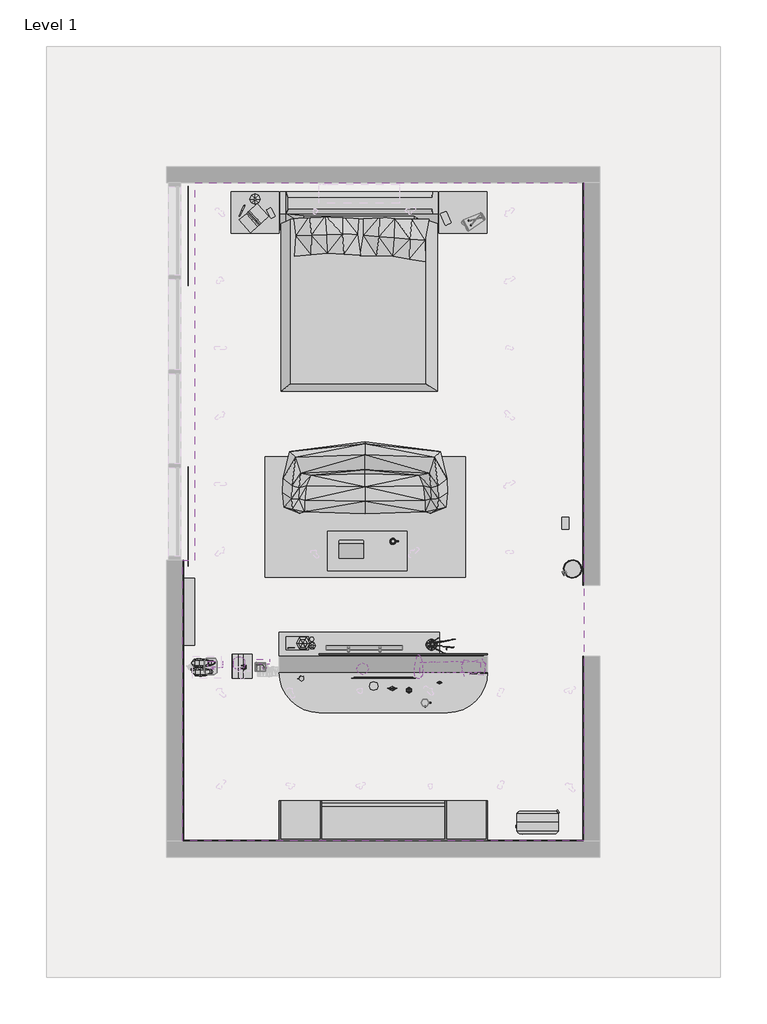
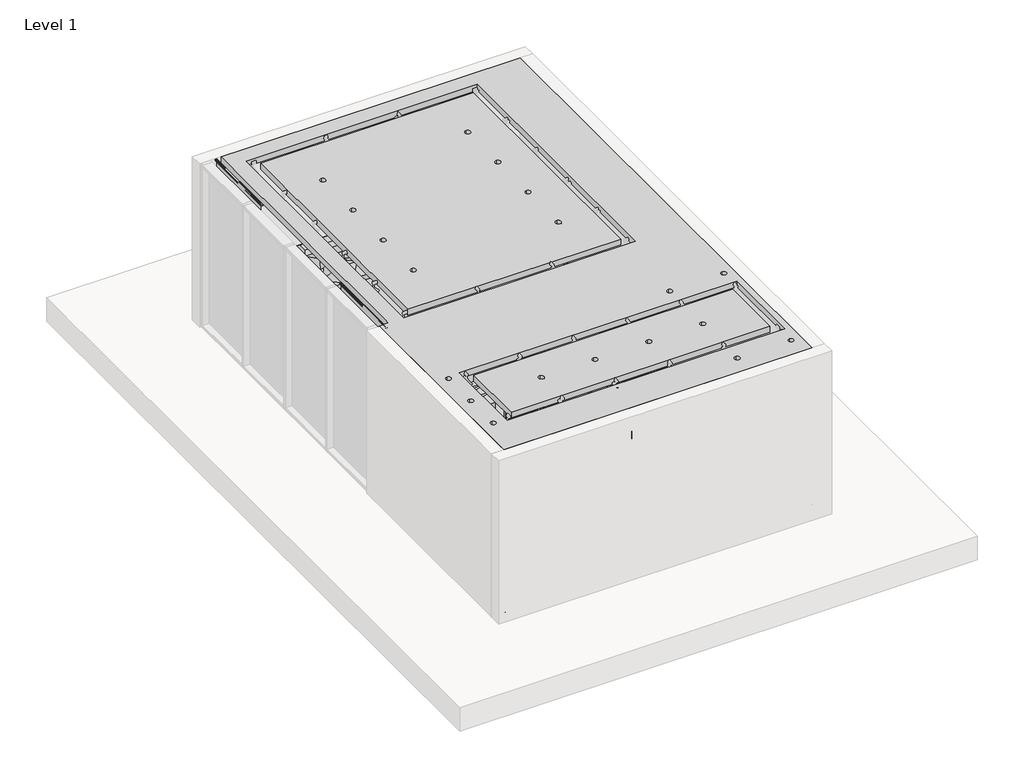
# One storey, part 2 of 2: 42 geographic elements, 9 proxies.
"""IFC4 building model written with IfcOpenShell, lengths in millimetres."""

from ifc_helpers import new_model, si_unit, point, frame, frame_2d, origin, place, context, project, spatial, polyline, circle_curve, ellipse_curve, trimmed, segment, composite_curve, outline, extrude, transform, mapped, element, save
from ifc_brep_helpers import plane_surface, cylinder_surface, advanced_brep
from components import generic_models_2_generic_models_2_3f50845c, generic_models_2_generic_models_2_17f05277, generic_models_3_generic_models_3_f648256a, generic_models_4_generic_models_4_595c3268, generic_models_5_generic_models_5_7c13f3b2, generic_models_7_generic_models_7_d57c916e, generic_models_8_generic_models_8_8e8264de, generic_models_9_generic_models_9_42a9b93f, geographic_element_208f0b4b, geographic_element_5f6d6c8c, geographic_element_73b1dc01, geographic_element_906ff1fe, geographic_element_272661ff, geographic_element_56111ee9, geographic_element_9156fac0, geographic_element_98d2575c, geographic_element_bc1c03e3, geographic_element_74562958, geographic_element_a3d3143a, enscape_assetdefinition_book_013_open_enscape_fd92b1af, enscape_assetdefinition_books_005_enscape_assetdefinition_3f142897, enscape_assetdefinition_books_011_enscape_assetdefinition_1bed9dea, enscape_assetdefinition_bowl_012_stack_enscape_61926c2f, enscape_assetdefinition_clock_002_enscape_assetdefinition_3edd2a66, enscape_assetdefinition_creme_tube_002_enscape_c31c35f7, enscape_assetdefinition_creme_tube_003_enscape_29d52560, enscape_assetdefinition_creme_tube_005_enscape_07ce0c4e, enscape_assetdefinition_creme_tube_006_enscape_695fccb8, enscape_assetdefinition_cup_002_coffee_enscape_aa947409, enscape_assetdefinition_cup_013_enscape_assetdefinition_cup_4f71ced8, enscape_assetdefinition_curtain_001_enscape_assetdefinition_ad6f74d6, enscape_assetdefinition_framed_photo_001_enscape_9ab4174a, enscape_assetdefinition_framed_photo_003_enscape_fe930a36, enscape_assetdefinition_heater_001_enscape_assetdefinition_c588bdaf, enscape_assetdefinition_laptop_004_enscape_assetdefinition_8b861ff2, enscape_assetdefinition_light_switch_001_enscape_6b1c9711, enscape_assetdefinition_pen_003_enscape_assetdefinition_pen_f7e62ea4, enscape_assetdefinition_pencil_case_002_enscape_daa552db, enscape_assetdefinition_power_socket_001_enscape_5ca5412b, enscape_assetdefinition_rug_014_enscape_assetdefinition_rug_3113469b, enscape_assetdefinition_sofa_017_enscape_assetdefinition_a1c17dae, enscape_assetdefinition_tv_001_wall_mounted_enscape_d5117aad, enscape_assetdefinition_table_031_enscape_assetdefinition_3ed2c79c, enscape_assetdefinition_telephone_002_enscape_9aaeaa57, enscape_assetdefinition_trolley_case_001_enscape_be718ea5, enscape_assetdefinition_vase_050_enscape_assetdefinition_a4bf4c07

model = new_model("IFC4")

# Units and contexts
model_context = context("Model", 3, world=origin())
ifc_project = project(units=[si_unit("LENGTHUNIT", "METRE", prefix="MILLI")], contexts=[model_context])

# Site, building, storey
site = spatial("IfcSite", under=ifc_project)
building = spatial("IfcBuilding", under=site)
storey = spatial("IfcBuildingStorey", under=building, Name="Level 1", Elevation=0.0)

# Proxies
placement = place(None, origin())
element("IfcBuildingElementProxy", 1, Name="Cornice", ObjectType="Cornice", at=placement, inside=storey, context=model_context, shape_type="AdvancedBrep", body=[
    advanced_brep(
    [(5806.8449565, -8165.4040425, 100.0), (5806.8449565, -8165.4040425, 0.0), (5806.8449565, -8154.7954982, 0.0), (5806.8449565, -8155.4613354, 4.7376777), (5806.8449565, -8156.3831107, 5.3249134), (5806.8449565, -8157.9216076, 5.3249134), (5806.8449565, -8157.9216076, 9.3340925), (5806.8449565, -8156.1569773, 9.3340925), (5806.8449565, -8156.1569773, 14.3340925), (5806.8449565, -8157.9216076, 14.3340925), (5806.8449565, -8157.9216076, 18.4025531), (5806.8449565, -8156.1569773, 18.4025531), (5806.8449565, -8156.1569773, 22.7958585), (5806.8449565, -8159.2819773, 22.7958585), (5806.8449565, -8159.2819773, 87.7958585), (5806.8449565, -8161.4973373, 87.7958585), (5806.8449565, -8161.4973373, 92.7958585), (5806.8449565, -8159.2819773, 92.7958585), (5806.8449565, -8159.2819773, 97.7787085), (5806.8449565, -8161.5032688, 100.0), (801.8449565, -8165.4040425, 100.0), (805.7457302, -8161.5032688, 100.0), (807.9670217, -8159.2819773, 97.7787085), (807.9670217, -8159.2819773, 92.7958585), (805.7516617, -8161.4973373, 92.7958585), (805.7516617, -8161.4973373, 87.7958585), (807.9670217, -8159.2819773, 87.7958585), (807.9670217, -8159.2819773, 22.7958585), (811.0920217, -8156.1569773, 22.7958585), (811.0920217, -8156.1569773, 18.4025531), (809.3273915, -8157.9216076, 18.4025531), (809.3273915, -8157.9216076, 14.3340925), (811.0920217, -8156.1569773, 14.3340925), (811.0920217, -8156.1569773, 9.3340925), (809.3273915, -8157.9216076, 9.3340925), (809.3273915, -8157.9216076, 5.3249134), (810.8658883, -8156.3831107, 5.3249134), (811.7876636, -8155.4613354, 4.7376777), (812.4535008, -8154.7954982, 0.0), (801.8449565, -8165.4040425, 0.0)],
    [
        (0, 1),
        (1, 2),
        (2, 3),
        (3, 4, circle_curve(frame((5806.8449565, -8156.3831107, 4.3078468), z_axis=(1.0, 0.0, 0.0), x_axis=(0.0, 1.0, 0.0)), 1.0170665)),
        (4, 5),
        (5, 6),
        (6, 7),
        (7, 8),
        (8, 9),
        (9, 10),
        (10, 11),
        (11, 12),
        (12, 13),
        (13, 14),
        (14, 15),
        (15, 16),
        (16, 17),
        (17, 18),
        (18, 19, circle_curve(frame((5806.8449565, -8161.5032688, 97.7787085), z_axis=(1.0, 0.0, 0.0), x_axis=(0.0, 1.0, 0.0)), 2.2212915)),
        (19, 0),
        (20, 21),
        (21, 22, ellipse_curve(frame((805.7457302, -8161.5032688, 97.7787085), z_axis=(-0.7071067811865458, 0.7071067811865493, 0.0), x_axis=(0.7071067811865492, 0.7071067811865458, 0.0)), 3.1413806, 2.2212915)),
        (22, 23),
        (23, 24),
        (24, 25),
        (25, 26),
        (26, 27),
        (27, 28),
        (28, 29),
        (29, 30),
        (30, 31),
        (31, 32),
        (32, 33),
        (33, 34),
        (34, 35),
        (35, 36),
        (36, 37, ellipse_curve(frame((810.8658883, -8156.3831107, 4.3078468), z_axis=(-0.7071067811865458, 0.7071067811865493, 0.0), x_axis=(0.7071067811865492, 0.7071067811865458, 0.0)), 1.4383493, 1.0170665)),
        (37, 38),
        (38, 39),
        (39, 20),
        (19, 21),
        (20, 0),
        (39, 1),
        (38, 2),
        (37, 3),
        (36, 4),
        (35, 5),
        (34, 6),
        (33, 7),
        (32, 8),
        (31, 9),
        (30, 10),
        (29, 11),
        (28, 12),
        (27, 13),
        (26, 14),
        (25, 15),
        (24, 16),
        (23, 17),
        (22, 18),
    ],
    [
        plane_surface(frame((5806.8449565, -8165.4040425, -100.0760513), z_axis=(1.0, 0.0, 0.0), x_axis=(0.0, -1.0, 0.0))),
        plane_surface(frame((801.8449565, -8165.4040425, 304.8), z_axis=(-0.7071067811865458, 0.7071067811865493, 0.0), x_axis=(0.7071067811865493, 0.7071067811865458, 0.0))),
        plane_surface(frame((5806.8449565, -8161.5032688, 100.0), z_axis=(0.0, 0.0, 1.0), x_axis=(-1.0, 0.0, 0.0))),
        plane_surface(frame((5806.8449565, -8165.4040425, 100.0), z_axis=(0.0, -1.0, 0.0), x_axis=(-1.0, 0.0, 0.0))),
        plane_surface(frame((5806.8449565, -8165.4040425, 0.0), z_axis=(0.0, 0.0, -1.0), x_axis=(-1.0, 0.0, 0.0))),
        plane_surface(frame((5806.8449565, -8154.7954982, 0.0), z_axis=(0.0, 0.9902680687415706, 0.13917310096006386), x_axis=(-1.0, 0.0, 0.0))),
        cylinder_surface(frame((5806.8449565, -8156.3831107, 4.3078468), z_axis=(1.0, 0.0, 0.0), x_axis=(0.0, 1.0, 0.0)), 1.0170665),
        plane_surface(frame((5806.8449565, -8156.3831107, 5.3249134), z_axis=(0.0, 0.0, 1.0), x_axis=(-1.0, 0.0, 0.0))),
        plane_surface(frame((5806.8449565, -8157.9216076, 5.3249134), z_axis=(0.0, 1.0, 0.0), x_axis=(-1.0, 0.0, 0.0))),
        plane_surface(frame((5806.8449565, -8157.9216076, 9.3340925), z_axis=(0.0, 0.0, -1.0), x_axis=(-1.0, 0.0, 0.0))),
        plane_surface(frame((5806.8449565, -8156.1569773, 9.3340925), z_axis=(0.0, 1.0, 0.0), x_axis=(-1.0, 0.0, 0.0))),
        plane_surface(frame((5806.8449565, -8156.1569773, 14.3340925), z_axis=(0.0, 0.0, 1.0), x_axis=(-1.0, 0.0, 0.0))),
        plane_surface(frame((5806.8449565, -8157.9216076, 14.3340925), z_axis=(0.0, 1.0, 0.0), x_axis=(-1.0, 0.0, 0.0))),
        plane_surface(frame((5806.8449565, -8157.9216076, 18.4025531), z_axis=(0.0, 0.0, -1.0), x_axis=(-1.0, 0.0, 0.0))),
        plane_surface(frame((5806.8449565, -8156.1569773, 18.4025531), z_axis=(0.0, 1.0, 0.0), x_axis=(-1.0, 0.0, 0.0))),
        plane_surface(frame((5806.8449565, -8156.1569773, 22.7958585), z_axis=(0.0, 0.0, 1.0), x_axis=(-1.0, 0.0, 0.0))),
        plane_surface(frame((5806.8449565, -8159.2819773, 22.7958585), z_axis=(0.0, 1.0, 0.0), x_axis=(-1.0, 0.0, 0.0))),
        plane_surface(frame((5806.8449565, -8159.2819773, 87.7958585), z_axis=(0.0, 0.0, 1.0), x_axis=(-1.0, 0.0, 0.0))),
        plane_surface(frame((5806.8449565, -8161.4973373, 87.7958585), z_axis=(0.0, 1.0, 0.0), x_axis=(-1.0, 0.0, 0.0))),
        plane_surface(frame((5806.8449565, -8161.4973373, 92.7958585), z_axis=(0.0, 0.0, -1.0), x_axis=(-1.0, 0.0, 0.0))),
        plane_surface(frame((5806.8449565, -8159.2819773, 92.7958585), z_axis=(0.0, 1.0, 0.0), x_axis=(-1.0, 0.0, 0.0))),
        cylinder_surface(frame((5806.8449565, -8161.5032688, 97.7787085), z_axis=(1.0, 0.0, 0.0), x_axis=(0.0, 1.0, 0.0)), 2.2212915),
    ],
    [
        (0, [[1, 2, 3, 4, 5, 6, 7, 8, 9, 10, 11, 12, 13, 14, 15, 16, 17, 18, 19, 20]]),
        (1, [[21, 22, 23, 24, 25, 26, 27, 28, 29, 30, 31, 32, 33, 34, 35, 36, 37, 38, 39, 40]]),
        (2, [[-20, 41, -21, 42]]),
        (3, [[-1, -42, -40, 43]]),
        (4, [[-2, -43, -39, 44]]),
        (5, [[-3, -44, -38, 45]]),
        (6, [[-4, -45, -37, 46]]),
        (7, [[-5, -46, -36, 47]]),
        (8, [[-6, -47, -35, 48]]),
        (9, [[-7, -48, -34, 49]]),
        (10, [[-8, -49, -33, 50]]),
        (11, [[-9, -50, -32, 51]]),
        (12, [[-10, -51, -31, 52]]),
        (13, [[-11, -52, -30, 53]]),
        (14, [[-12, -53, -29, 54]]),
        (15, [[-13, -54, -28, 55]]),
        (16, [[-14, -55, -27, 56]]),
        (17, [[-15, -56, -26, 57]]),
        (18, [[-16, -57, -25, 58]]),
        (19, [[-17, -58, -24, 59]]),
        (20, [[-18, -59, -23, 60]]),
        (21, [[-19, -60, -22, -41]]),
    ],
),
    advanced_brep(
    [(801.8449565, -4665.4040425, 100.0), (805.7457302, -4665.4040425, 100.0), (807.9670217, -4665.4040425, 97.7787085), (807.9670217, -4665.4040425, 92.7958585), (805.7516617, -4665.4040425, 92.7958585), (805.7516617, -4665.4040425, 87.7958585), (807.9670217, -4665.4040425, 87.7958585), (807.9670217, -4665.4040425, 22.7958585), (811.0920217, -4665.4040425, 22.7958585), (811.0920217, -4665.4040425, 18.4025531), (809.3273915, -4665.4040425, 18.4025531), (809.3273915, -4665.4040425, 14.3340925), (811.0920217, -4665.4040425, 14.3340925), (811.0920217, -4665.4040425, 9.3340925), (809.3273915, -4665.4040425, 9.3340925), (809.3273915, -4665.4040425, 5.3249134), (810.8658883, -4665.4040425, 5.3249134), (811.7876636, -4665.4040425, 4.7376777), (812.4535008, -4665.4040425, 0.0), (801.8449565, -4665.4040425, 0.0), (801.8449565, -8165.4040425, 100.0), (801.8449565, -8165.4040425, 0.0), (812.4535008, -8154.7954982, 0.0), (811.7876636, -8155.4613354, 4.7376777), (810.8658883, -8156.3831107, 5.3249134), (809.3273915, -8157.9216076, 5.3249134), (809.3273915, -8157.9216076, 9.3340925), (811.0920217, -8156.1569773, 9.3340925), (811.0920217, -8156.1569773, 14.3340925), (809.3273915, -8157.9216076, 14.3340925), (809.3273915, -8157.9216076, 18.4025531), (811.0920217, -8156.1569773, 18.4025531), (811.0920217, -8156.1569773, 22.7958585), (807.9670217, -8159.2819773, 22.7958585), (807.9670217, -8159.2819773, 87.7958585), (805.7516617, -8161.4973373, 87.7958585), (805.7516617, -8161.4973373, 92.7958585), (807.9670217, -8159.2819773, 92.7958585), (807.9670217, -8159.2819773, 97.7787085), (805.7457302, -8161.5032688, 100.0)],
    [
        (0, 1),
        (1, 2, circle_curve(frame((805.7457302, -4665.4040425, 97.7787085), z_axis=(0.0, 1.0, 0.0), x_axis=(1.0, 0.0, 0.0)), 2.2212915)),
        (2, 3),
        (3, 4),
        (4, 5),
        (5, 6),
        (6, 7),
        (7, 8),
        (8, 9),
        (9, 10),
        (10, 11),
        (11, 12),
        (12, 13),
        (13, 14),
        (14, 15),
        (15, 16),
        (16, 17, circle_curve(frame((810.8658883, -4665.4040425, 4.3078468), z_axis=(0.0, 1.0, 0.0), x_axis=(1.0, 0.0, 0.0)), 1.0170665)),
        (17, 18),
        (18, 19),
        (19, 0),
        (20, 21),
        (21, 22),
        (22, 23),
        (23, 24, ellipse_curve(frame((810.8658883, -8156.3831107, 4.3078468), z_axis=(0.7071067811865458, -0.7071067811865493, 0.0), x_axis=(0.7071067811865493, 0.7071067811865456, 0.0)), 1.4383493, 1.0170665)),
        (24, 25),
        (25, 26),
        (26, 27),
        (27, 28),
        (28, 29),
        (29, 30),
        (30, 31),
        (31, 32),
        (32, 33),
        (33, 34),
        (34, 35),
        (35, 36),
        (36, 37),
        (37, 38),
        (38, 39, ellipse_curve(frame((805.7457302, -8161.5032688, 97.7787085), z_axis=(0.7071067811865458, -0.7071067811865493, 0.0), x_axis=(0.7071067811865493, 0.7071067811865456, 0.0)), 3.1413806, 2.2212915)),
        (39, 20),
        (0, 20),
        (39, 1),
        (38, 2),
        (37, 3),
        (36, 4),
        (35, 5),
        (34, 6),
        (33, 7),
        (32, 8),
        (31, 9),
        (30, 10),
        (29, 11),
        (28, 12),
        (27, 13),
        (26, 14),
        (25, 15),
        (24, 16),
        (23, 17),
        (22, 18),
        (21, 19),
    ],
    [
        plane_surface(frame((701.7689053, -4665.4040425, 0.0), z_axis=(0.0, 1.0, 0.0), x_axis=(0.0, 0.0, -1.0))),
        plane_surface(frame((801.8449565, -8165.4040425, -304.8), z_axis=(0.7071067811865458, -0.7071067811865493, 0.0), x_axis=(0.7071067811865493, 0.7071067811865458, 0.0))),
        plane_surface(frame((801.8449565, -4665.4040425, 100.0), z_axis=(0.0, 0.0, 1.0), x_axis=(0.0, -1.0, 0.0))),
        cylinder_surface(frame((805.7457302, -4665.4040425, 97.7787085), z_axis=(0.0, 1.0, 0.0), x_axis=(1.0, 0.0, 0.0)), 2.2212915),
        plane_surface(frame((807.9670217, -4665.4040425, 97.7787085), z_axis=(1.0, 0.0, 0.0), x_axis=(0.0, -1.0, 0.0))),
        plane_surface(frame((807.9670217, -4665.4040425, 92.7958585), z_axis=(0.0, 0.0, -1.0), x_axis=(0.0, -1.0, 0.0))),
        plane_surface(frame((805.7516617, -4665.4040425, 92.7958585), z_axis=(1.0, 0.0, 0.0), x_axis=(0.0, -1.0, 0.0))),
        plane_surface(frame((805.7516617, -4665.4040425, 87.7958585), z_axis=(0.0, 0.0, 1.0), x_axis=(0.0, -1.0, 0.0))),
        plane_surface(frame((807.9670217, -4665.4040425, 87.7958585), z_axis=(1.0, 0.0, 0.0), x_axis=(0.0, -1.0, 0.0))),
        plane_surface(frame((807.9670217, -4665.4040425, 22.7958585), z_axis=(0.0, 0.0, 1.0), x_axis=(0.0, -1.0, 0.0))),
        plane_surface(frame((811.0920217, -4665.4040425, 22.7958585), z_axis=(1.0, 0.0, 0.0), x_axis=(0.0, -1.0, 0.0))),
        plane_surface(frame((811.0920217, -4665.4040425, 18.4025531), z_axis=(0.0, 0.0, -1.0), x_axis=(0.0, -1.0, 0.0))),
        plane_surface(frame((809.3273915, -4665.4040425, 18.4025531), z_axis=(1.0, 0.0, 0.0), x_axis=(0.0, -1.0, 0.0))),
        plane_surface(frame((809.3273915, -4665.4040425, 14.3340925), z_axis=(0.0, 0.0, 1.0), x_axis=(0.0, -1.0, 0.0))),
        plane_surface(frame((811.0920217, -4665.4040425, 14.3340925), z_axis=(1.0, 0.0, 0.0), x_axis=(0.0, -1.0, 0.0))),
        plane_surface(frame((811.0920217, -4665.4040425, 9.3340925), z_axis=(0.0, 0.0, -1.0), x_axis=(0.0, -1.0, 0.0))),
        plane_surface(frame((809.3273915, -4665.4040425, 9.3340925), z_axis=(1.0, 0.0, 0.0), x_axis=(0.0, -1.0, 0.0))),
        plane_surface(frame((809.3273915, -4665.4040425, 5.3249134), z_axis=(0.0, 0.0, 1.0), x_axis=(0.0, -1.0, 0.0))),
        cylinder_surface(frame((810.8658883, -4665.4040425, 4.3078468), z_axis=(0.0, 1.0, 0.0), x_axis=(1.0, 0.0, 0.0)), 1.0170665),
        plane_surface(frame((811.7876636, -4665.4040425, 4.7376777), z_axis=(0.9902680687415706, 0.0, 0.13917310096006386), x_axis=(0.0, -1.0, 0.0))),
        plane_surface(frame((812.4535008, -4665.4040425, 0.0), z_axis=(0.0, 0.0, -1.0), x_axis=(0.0, -1.0, 0.0))),
        plane_surface(frame((801.8449565, -4665.4040425, 0.0), z_axis=(-1.0, 0.0, 0.0), x_axis=(0.0, -1.0, 0.0))),
    ],
    [
        (0, [[1, 2, 3, 4, 5, 6, 7, 8, 9, 10, 11, 12, 13, 14, 15, 16, 17, 18, 19, 20]]),
        (1, [[21, 22, 23, 24, 25, 26, 27, 28, 29, 30, 31, 32, 33, 34, 35, 36, 37, 38, 39, 40]]),
        (2, [[-1, 41, -40, 42]]),
        (3, [[-2, -42, -39, 43]]),
        (4, [[-3, -43, -38, 44]]),
        (5, [[-4, -44, -37, 45]]),
        (6, [[-5, -45, -36, 46]]),
        (7, [[-6, -46, -35, 47]]),
        (8, [[-7, -47, -34, 48]]),
        (9, [[-8, -48, -33, 49]]),
        (10, [[-9, -49, -32, 50]]),
        (11, [[-10, -50, -31, 51]]),
        (12, [[-11, -51, -30, 52]]),
        (13, [[-12, -52, -29, 53]]),
        (14, [[-13, -53, -28, 54]]),
        (15, [[-14, -54, -27, 55]]),
        (16, [[-15, -55, -26, 56]]),
        (17, [[-16, -56, -25, 57]]),
        (18, [[-17, -57, -24, 58]]),
        (19, [[-18, -58, -23, 59]]),
        (20, [[-19, -59, -22, 60]]),
        (21, [[-20, -60, -21, -41]]),
    ],
),
])
element("IfcBuildingElementProxy", 2, Name="Cornice", ObjectType="Cornice", at=placement, inside=storey, context=model_context, shape_type="SweptSolid", body=[
    extrude(outline(composite_curve([segment(polyline([(100.0, 5801.8449565), (100.0, 5797.9441829)]), True, "CONTINUOUS"), segment(trimmed(circle_curve(frame_2d((97.7787085, 5797.9441829)), 2.2212915), [point((100.0, 5797.9441829))], [point((97.7787085, 5795.7228913))], False, "CARTESIAN"), True, "CONTINUOUS"), segment(polyline([(97.7787085, 5795.7228913), (92.7958585, 5795.7228913), (92.7958585, 5797.9382514), (87.7958585, 5797.9382514), (87.7958585, 5795.7228913), (22.7958585, 5795.7228913), (22.7958585, 5792.5978913), (18.4025531, 5792.5978913), (18.4025531, 5794.3625216), (14.3340925, 5794.3625216), (14.3340925, 5792.5978913), (9.3340925, 5792.5978913), (9.3340925, 5794.3625216), (5.3249134, 5794.3625216), (5.3249134, 5792.8240248)]), True, "CONTINUOUS"), segment(trimmed(circle_curve(frame_2d((4.3078468, 5792.8240248)), 1.0170665), [point((5.3249134, 5792.8240248))], [point((4.7376777, 5791.9022495))], False, "CARTESIAN"), True, "CONTINUOUS"), segment(polyline([(4.7376777, 5791.9022495), (0.0, 5791.2364123), (0.0, 5801.8449565), (100.0, 5801.8449565)]), True, "CONTINUOUS")], self_intersect=False)), frame((0.0, -8165.4040425, 0.0), z_axis=(0.0, 1.0, 0.0), x_axis=(0.0, 0.0, 1.0)), (0.0, 0.0, 1.0), 2300.0),
    extrude(outline(composite_curve([segment(polyline([(100.0, 5801.8449565), (100.0, 5797.9441829)]), True, "CONTINUOUS"), segment(trimmed(circle_curve(frame_2d((97.7787085, 5797.9441829)), 2.2212915), [point((100.0, 5797.9441829))], [point((97.7787085, 5795.7228913))], False, "CARTESIAN"), True, "CONTINUOUS"), segment(polyline([(97.7787085, 5795.7228913), (92.7958585, 5795.7228913), (92.7958585, 5797.9382514), (87.7958585, 5797.9382514), (87.7958585, 5795.7228913), (22.7958585, 5795.7228913), (22.7958585, 5792.5978913), (18.4025531, 5792.5978913), (18.4025531, 5794.3625216), (14.3340925, 5794.3625216), (14.3340925, 5792.5978913), (9.3340925, 5792.5978913), (9.3340925, 5794.3625216), (5.3249134, 5794.3625216), (5.3249134, 5792.8240248)]), True, "CONTINUOUS"), segment(trimmed(circle_curve(frame_2d((4.3078468, 5792.8240248)), 1.0170665), [point((5.3249134, 5792.8240248))], [point((4.7376777, 5791.9022495))], False, "CARTESIAN"), True, "CONTINUOUS"), segment(polyline([(4.7376777, 5791.9022495), (0.0, 5791.2364123), (0.0, 5801.8449565), (100.0, 5801.8449565)]), True, "CONTINUOUS")], self_intersect=False)), frame((0.0, -4975.4040425, 0.0), z_axis=(0.0, 1.0, 0.0), x_axis=(0.0, 0.0, 1.0)), (0.0, 0.0, 1.0), 5010.0),
])
generic_models_2_generic_models_2_shape = generic_models_2_generic_models_2_3f50845c(model_context)
generic_models_2_generic_models_2_2_shape = generic_models_2_generic_models_2_17f05277(model_context)
element("IfcBuildingElementProxy", 3, Name="Generic Models 2 : Generic Models 2", ObjectType="Generic Models 2 : Generic Models 2", at=placement, inside=storey, context=model_context, shape_type="MappedRepresentation", body=[
    mapped(generic_models_2_generic_models_2_shape, transform((0.0, 0.0, 0.0), x_axis=(1.0, 0.0, 0.0), y_axis=(0.0, 1.0, 0.0), z_axis=(0.0, 0.0, 1.0))),
    mapped(generic_models_2_generic_models_2_2_shape, transform((0.0, 0.0, 0.0), x_axis=(1.0, 0.0, 0.0), y_axis=(0.0, 1.0, 0.0), z_axis=(0.0, 0.0, 1.0))),
])
generic_models_3_generic_models_3_shape = generic_models_3_generic_models_3_f648256a(model_context)
element("IfcBuildingElementProxy", 4, Name="Generic Models 3 : Generic Models 3", ObjectType="Generic Models 3 : Generic Models 3", at=placement, inside=storey, context=model_context, shape_type="MappedRepresentation", body=[
    mapped(generic_models_3_generic_models_3_shape, transform((0.0, 0.0, 0.0), x_axis=(1.0, 0.0, 0.0), y_axis=(0.0, 1.0, 0.0), z_axis=(0.0, 0.0, 1.0))),
])
generic_models_4_generic_models_4_shape = generic_models_4_generic_models_4_595c3268(model_context)
element("IfcBuildingElementProxy", 5, Name="Generic Models 4 : Generic Models 4", ObjectType="Generic Models 4 : Generic Models 4", at=placement, inside=storey, context=model_context, shape_type="MappedRepresentation", body=[
    mapped(generic_models_4_generic_models_4_shape, transform((0.0, 0.0, 0.0), x_axis=(1.0, 0.0, 0.0), y_axis=(0.0, 1.0, 0.0), z_axis=(0.0, 0.0, 1.0))),
])
generic_models_5_generic_models_5_shape = generic_models_5_generic_models_5_7c13f3b2(model_context)
element("IfcBuildingElementProxy", 6, Name="Generic Models 5 : Generic Models 5", ObjectType="Generic Models 5 : Generic Models 5", at=placement, inside=storey, context=model_context, shape_type="MappedRepresentation", body=[
    mapped(generic_models_5_generic_models_5_shape, transform((0.0, 0.0, 0.0), x_axis=(1.0, 0.0, 0.0), y_axis=(0.0, 1.0, 0.0), z_axis=(0.0, 0.0, 1.0))),
])
generic_models_7_generic_models_7_shape = generic_models_7_generic_models_7_d57c916e(model_context)
element("IfcBuildingElementProxy", 7, Name="Generic Models 7 : Generic Models 7", ObjectType="Generic Models 7 : Generic Models 7", at=placement, inside=storey, context=model_context, shape_type="MappedRepresentation", body=[
    mapped(generic_models_7_generic_models_7_shape, transform((0.0, 0.0, 0.0), x_axis=(1.0, 0.0, 0.0), y_axis=(0.0, 1.0, 0.0), z_axis=(0.0, 0.0, 1.0))),
])
generic_models_8_generic_models_8_shape = generic_models_8_generic_models_8_8e8264de(model_context)
element("IfcBuildingElementProxy", 8, Name="Generic Models 8 : Generic Models 8", ObjectType="Generic Models 8 : Generic Models 8", at=placement, inside=storey, context=model_context, shape_type="MappedRepresentation", body=[
    mapped(generic_models_8_generic_models_8_shape, transform((0.0, 0.0, 0.0), x_axis=(1.0, 0.0, 0.0), y_axis=(0.0, 1.0, 0.0), z_axis=(0.0, 0.0, 1.0))),
])
generic_models_9_generic_models_9_shape = generic_models_9_generic_models_9_42a9b93f(model_context)
element("IfcBuildingElementProxy", 9, Name="Generic Models 9 : Generic Models 9", ObjectType="Generic Models 9 : Generic Models 9", at=placement, inside=storey, context=model_context, shape_type="MappedRepresentation", body=[
    mapped(generic_models_9_generic_models_9_shape, transform((0.0, 0.0, 0.0), x_axis=(1.0, 0.0, 0.0), y_axis=(0.0, 1.0, 0.0), z_axis=(0.0, 0.0, 1.0))),
])

# Geographic elements
geographic_element_shape = geographic_element_208f0b4b(model_context)
element("IfcGeographicElement", 10, ObjectType="Enscape AssetDefinition - Bed 008 197 x 249 cm (77 x 98 in) : Enscape AssetDefinition - Bed 008 197 x 249 cm (77 x 98 in)", at=placement, inside=storey, context=model_context, shape_type="MappedRepresentation", body=[
    mapped(geographic_element_shape, transform((3001.8449565, -1235.4040425, 0.0), x_axis=(1.0, 0.0, 0.0), y_axis=(0.0, 1.0, 0.0), z_axis=(0.0, 0.0, 1.0))),
])
geographic_element_2_shape = geographic_element_5f6d6c8c(model_context)
element("IfcGeographicElement", 11, ObjectType="Enscape AssetDefinition - Decorative Goods 012 Bears : Enscape AssetDefinition - Decorative Goods 012 Bears", at=placement, inside=storey, context=model_context, shape_type="MappedRepresentation", body=[
    mapped(geographic_element_2_shape, transform((1053.3349176, -6000.0, 746.0), x_axis=(0.0, 1.0, 0.0), y_axis=(-1.0, 0.0, 0.0), z_axis=(0.0, 0.0, 1.0))),
])
element("IfcGeographicElement", 12, ObjectType="Enscape AssetDefinition - Decorative Goods 012 Bears : Enscape AssetDefinition - Decorative Goods 012 Bears", at=placement, inside=storey, context=model_context, shape_type="MappedRepresentation", body=[
    mapped(geographic_element_2_shape, transform((3795.1300546, -6000.0, 2216.0), x_axis=(-1.0, 0.0, 0.0), y_axis=(0.0, -1.0, 0.0), z_axis=(0.0, 0.0, 1.0))),
])
geographic_element_3_shape = geographic_element_73b1dc01(model_context)
element("IfcGeographicElement", 13, ObjectType="Enscape AssetDefinition - Garbage Can 006 Bathroom : Enscape AssetDefinition - Garbage Can 006 Bathroom", at=placement, inside=storey, context=model_context, shape_type="MappedRepresentation", body=[
    mapped(geographic_element_3_shape, transform((5661.2904044, -4775.6439973, 0.0), x_axis=(0.4383711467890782, -0.8987940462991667, 0.0), y_axis=(0.8987940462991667, 0.4383711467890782, 0.0), z_axis=(0.0, 0.0, 1.0))),
])
geographic_element_4_shape = geographic_element_906ff1fe(model_context)
element("IfcGeographicElement", 14, ObjectType="Enscape AssetDefinition - Decorative Goods 030 Room Fragrance : Enscape AssetDefinition - Decorative Goods 030 Room Fragrance", at=placement, inside=storey, context=model_context, shape_type="MappedRepresentation", body=[
    mapped(geographic_element_4_shape, transform((1563.8459117, -6000.0, 746.0), x_axis=(1.0, 0.0, 0.0), y_axis=(0.0, 1.0, 0.0), z_axis=(0.0, 0.0, 1.0))),
])
geographic_element_5_shape = geographic_element_272661ff(model_context)
element("IfcGeographicElement", 15, ObjectType="Enscape AssetDefinition - Notebook 002 Stack : Enscape AssetDefinition - Notebook 002 Stack", at=placement, inside=storey, context=model_context, shape_type="MappedRepresentation", body=[
    mapped(geographic_element_5_shape, transform((1540.8713627, -5989.0381532, 256.0), x_axis=(1.0, 0.0, 0.0), y_axis=(0.0, 1.0, 0.0), z_axis=(0.0, 0.0, 1.0))),
])
geographic_element_6_shape = geographic_element_56111ee9(model_context)
element("IfcGeographicElement", 16, ObjectType="Enscape AssetDefinition - Vase 002 Eucalyptus : Enscape AssetDefinition - Vase 002 Eucalyptus", at=placement, inside=storey, context=model_context, shape_type="MappedRepresentation", body=[
    mapped(geographic_element_6_shape, transform((3901.8449565, -5719.5792536, 700.0), x_axis=(1.0, 0.0, 0.0), y_axis=(0.0, 1.0, 0.0), z_axis=(0.0, 0.0, 1.0))),
])
geographic_element_7_shape = geographic_element_9156fac0(model_context)
element("IfcGeographicElement", 17, ObjectType="Enscape AssetDefinition - Decoration Collection 001 : Enscape AssetDefinition - Decoration Collection 001", at=placement, inside=storey, context=model_context, shape_type="MappedRepresentation", body=[
    mapped(geographic_element_7_shape, transform((2261.8449565, -5699.3169806, 700.0), x_axis=(1.0, 0.0, 0.0), y_axis=(0.0, 1.0, 0.0), z_axis=(0.0, 0.0, 1.0))),
])
geographic_element_8_shape = geographic_element_98d2575c(model_context)
element("IfcGeographicElement", 18, ObjectType="Enscape AssetDefinition - Vase 042 Gypsophila : Enscape AssetDefinition - Vase 042 Gypsophila", at=placement, inside=storey, context=model_context, shape_type="MappedRepresentation", body=[
    mapped(geographic_element_8_shape, transform((1701.8449565, -165.4040425, 566.0), x_axis=(1.0, 0.0, 0.0), y_axis=(0.0, 1.0, 0.0), z_axis=(0.0, 0.0, 1.0))),
])
geographic_element_9_shape = geographic_element_bc1c03e3(model_context)
element("IfcGeographicElement", 19, ObjectType="Enscape AssetDefinition - Smartphone 002 : Enscape AssetDefinition - Smartphone 002", at=placement, inside=storey, context=model_context, shape_type="MappedRepresentation", body=[
    mapped(geographic_element_9_shape, transform((4077.5102945, -402.8175475, 566.0), x_axis=(0.9179903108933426, 0.3966028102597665, 0.0), y_axis=(-0.3966028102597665, 0.9179903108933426, 0.0), z_axis=(0.0, 0.0, 1.0))),
])
geographic_element_10_shape = geographic_element_74562958(model_context)
element("IfcGeographicElement", 20, ObjectType="Enscape AssetDefinition - Smartphone 001 : Enscape AssetDefinition - Smartphone 001", at=placement, inside=storey, context=model_context, shape_type="MappedRepresentation", body=[
    mapped(geographic_element_10_shape, transform((1897.7682121, -340.9652724, 566.0), x_axis=(0.8829475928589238, 0.4694715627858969, 0.0), y_axis=(-0.4694715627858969, 0.8829475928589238, 0.0), z_axis=(0.0, 0.0, 1.0))),
])
geographic_element_11_shape = geographic_element_a3d3143a(model_context)
element("IfcGeographicElement", 21, ObjectType="Enscape AssetDefinition - Instrument 012 Xylophone : Enscape AssetDefinition - Instrument 012 Xylophone", at=placement, inside=storey, context=model_context, shape_type="MappedRepresentation", body=[
    mapped(geographic_element_11_shape, transform((4433.9051803, -438.0101134, 566.0), x_axis=(0.8746197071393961, 0.48480962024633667, 0.0), y_axis=(-0.48480962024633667, 0.8746197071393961, 0.0), z_axis=(0.0, 0.0, 1.0))),
])
enscape_assetdefinition_book_013_open_enscape_shape = enscape_assetdefinition_book_013_open_enscape_fd92b1af(model_context)
element("IfcGeographicElement", 22, ObjectType="Enscape AssetDefinition - Book 013 Open : Enscape AssetDefinition - Book 013 Open", at=placement, inside=storey, context=model_context, shape_type="MappedRepresentation", body=[
    mapped(enscape_assetdefinition_book_013_open_enscape_shape, transform((1687.3433609, -404.8855622, 566.0), x_axis=(0.7431448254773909, 0.6691306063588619, 0.0), y_axis=(-0.6691306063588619, 0.7431448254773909, 0.0), z_axis=(0.0, 0.0, 1.0))),
])
enscape_assetdefinition_books_005_enscape_assetdefinition_shape = enscape_assetdefinition_books_005_enscape_assetdefinition_3f142897(model_context)
element("IfcGeographicElement", 23, ObjectType="Enscape AssetDefinition - Books 005 : Enscape AssetDefinition - Books 005", at=placement, inside=storey, context=model_context, shape_type="MappedRepresentation", body=[
    mapped(enscape_assetdefinition_books_005_enscape_assetdefinition_shape, transform((4421.8449565, -6025.4040425, 2216.0), x_axis=(1.0, 0.0, 0.0), y_axis=(0.0, 1.0, 0.0), z_axis=(0.0, 0.0, 1.0))),
])
enscape_assetdefinition_books_011_enscape_assetdefinition_shape = enscape_assetdefinition_books_011_enscape_assetdefinition_1bed9dea(model_context)
element("IfcGeographicElement", 24, ObjectType="Enscape AssetDefinition - Books 011 : Enscape AssetDefinition - Books 011", at=placement, inside=storey, context=model_context, shape_type="MappedRepresentation", body=[
    mapped(enscape_assetdefinition_books_011_enscape_assetdefinition_shape, transform((4128.9467375, -6000.0, 2461.0), x_axis=(1.0, 0.0, 0.0), y_axis=(0.0, 1.0, 0.0), z_axis=(0.0, 0.0, 1.0))),
])
enscape_assetdefinition_bowl_012_stack_enscape_shape = enscape_assetdefinition_bowl_012_stack_enscape_61926c2f(model_context)
element("IfcGeographicElement", 25, ObjectType="Enscape AssetDefinition - Bowl 012 Stack : Enscape AssetDefinition - Bowl 012 Stack", at=placement, inside=storey, context=model_context, shape_type="MappedRepresentation", body=[
    mapped(enscape_assetdefinition_bowl_012_stack_enscape_shape, transform((1501.8449565, -5965.4040425, 1236.0), x_axis=(1.0, 0.0, 0.0), y_axis=(0.0, 1.0, 0.0), z_axis=(0.0, 0.0, 1.0))),
])
enscape_assetdefinition_clock_002_enscape_assetdefinition_shape = enscape_assetdefinition_clock_002_enscape_assetdefinition_3edd2a66(model_context)
element("IfcGeographicElement", 26, ObjectType="Enscape AssetDefinition - Clock 002 : Enscape AssetDefinition - Clock 002", at=placement, inside=storey, context=model_context, shape_type="MappedRepresentation", body=[
    mapped(enscape_assetdefinition_clock_002_enscape_assetdefinition_shape, transform((5571.023991, -4207.515339, 1098.0), x_axis=(0.0, -1.0, 0.0), y_axis=(1.0, 0.0, 0.0), z_axis=(0.0, 0.0, 1.0))),
])
enscape_assetdefinition_creme_tube_002_enscape_shape = enscape_assetdefinition_creme_tube_002_enscape_c31c35f7(model_context)
element("IfcGeographicElement", 27, ObjectType="Enscape AssetDefinition - Creme Tube 002 : Enscape AssetDefinition - Creme Tube 002", at=placement, inside=storey, context=model_context, shape_type="MappedRepresentation", body=[
    mapped(enscape_assetdefinition_creme_tube_002_enscape_shape, transform((4001.8449565, -6190.5307611, 900.0), x_axis=(1.0, 0.0, 0.0), y_axis=(0.0, 1.0, 0.0), z_axis=(0.0, 0.0, 1.0))),
])
enscape_assetdefinition_creme_tube_003_enscape_shape = enscape_assetdefinition_creme_tube_003_enscape_29d52560(model_context)
element("IfcGeographicElement", 28, ObjectType="Enscape AssetDefinition - Creme Tube 003 : Enscape AssetDefinition - Creme Tube 003", at=placement, inside=storey, context=model_context, shape_type="MappedRepresentation", body=[
    mapped(enscape_assetdefinition_creme_tube_003_enscape_shape, transform((3412.8449565, -6264.9474358, 900.0), x_axis=(1.0, 0.0, 0.0), y_axis=(0.0, 1.0, 0.0), z_axis=(0.0, 0.0, 1.0))),
])
enscape_assetdefinition_creme_tube_005_enscape_shape = enscape_assetdefinition_creme_tube_005_enscape_07ce0c4e(model_context)
element("IfcGeographicElement", 29, ObjectType="Enscape AssetDefinition - Creme Tube 005 : Enscape AssetDefinition - Creme Tube 005", at=placement, inside=storey, context=model_context, shape_type="MappedRepresentation", body=[
    mapped(enscape_assetdefinition_creme_tube_005_enscape_shape, transform((3621.8449565, -6287.1547873, 900.0), x_axis=(1.0, 0.0, 0.0), y_axis=(0.0, 1.0, 0.0), z_axis=(0.0, 0.0, 1.0))),
])
enscape_assetdefinition_creme_tube_006_enscape_shape = enscape_assetdefinition_creme_tube_006_enscape_695fccb8(model_context)
element("IfcGeographicElement", 30, ObjectType="Enscape AssetDefinition - Creme Tube 006 : Enscape AssetDefinition - Creme Tube 006", at=placement, inside=storey, context=model_context, shape_type="MappedRepresentation", body=[
    mapped(enscape_assetdefinition_creme_tube_006_enscape_shape, transform((3181.8449565, -6234.3993122, 900.0), x_axis=(1.0, 0.0, 0.0), y_axis=(0.0, 1.0, 0.0), z_axis=(0.0, 0.0, 1.0))),
])
enscape_assetdefinition_cup_002_coffee_enscape_shape = enscape_assetdefinition_cup_002_coffee_enscape_aa947409(model_context)
element("IfcGeographicElement", 31, ObjectType="Enscape AssetDefinition - Cup 002 Coffee : Enscape AssetDefinition - Cup 002 Coffee", at=placement, inside=storey, context=model_context, shape_type="MappedRepresentation", body=[
    mapped(enscape_assetdefinition_cup_002_coffee_enscape_shape, transform((3821.8449565, -6441.5103658, 900.0), x_axis=(1.0, 0.0, 0.0), y_axis=(0.0, 1.0, 0.0), z_axis=(0.0, 0.0, 1.0))),
])
enscape_assetdefinition_cup_013_enscape_assetdefinition_cup_shape = enscape_assetdefinition_cup_013_enscape_assetdefinition_cup_4f71ced8(model_context)
element("IfcGeographicElement", 32, ObjectType="Enscape AssetDefinition - Cup 013 : Enscape AssetDefinition - Cup 013", at=placement, inside=storey, context=model_context, shape_type="MappedRepresentation", body=[
    mapped(enscape_assetdefinition_cup_013_enscape_assetdefinition_cup_shape, transform((3421.8449565, -4430.4040425, 396.9), x_axis=(1.0, 0.0, 0.0), y_axis=(0.0, 1.0, 0.0), z_axis=(0.0, 0.0, 1.0))),
])
enscape_assetdefinition_curtain_001_enscape_assetdefinition_shape = enscape_assetdefinition_curtain_001_enscape_assetdefinition_ad6f74d6(model_context)
element("IfcGeographicElement", 33, ObjectType="Enscape AssetDefinition - Curtain 001 : Enscape AssetDefinition - Curtain 001 2", at=placement, inside=storey, context=model_context, shape_type="MappedRepresentation", body=[
    mapped(enscape_assetdefinition_curtain_001_enscape_assetdefinition_shape, transform((890.3102494, -624.916516, 0.0), x_axis=(0.0, -1.0, 0.0), y_axis=(1.0, 0.0, 0.0), z_axis=(0.0, 0.0, 1.0))),
])
element("IfcGeographicElement", 34, ObjectType="Enscape AssetDefinition - Curtain 001 : Enscape AssetDefinition - Curtain 001 2", at=placement, inside=storey, context=model_context, shape_type="MappedRepresentation", body=[
    mapped(enscape_assetdefinition_curtain_001_enscape_assetdefinition_shape, transform((890.3102494, -4122.5394893, 0.0), x_axis=(0.0, -1.0, 0.0), y_axis=(1.0, 0.0, 0.0), z_axis=(0.0, 0.0, 1.0))),
])
enscape_assetdefinition_framed_photo_001_enscape_shape = enscape_assetdefinition_framed_photo_001_enscape_9ab4174a(model_context)
element("IfcGeographicElement", 35, ObjectType="Enscape AssetDefinition - Framed Photo 001 : Enscape AssetDefinition - Framed Photo 001", at=placement, inside=storey, context=model_context, shape_type="MappedRepresentation", body=[
    mapped(enscape_assetdefinition_framed_photo_001_enscape_shape, transform((1821.8449565, -5905.4040425, 1481.0), x_axis=(-1.0, 0.0, 0.0), y_axis=(0.0, -1.0, 0.0), z_axis=(0.0, 0.0, 1.0))),
])
enscape_assetdefinition_framed_photo_003_enscape_shape = enscape_assetdefinition_framed_photo_003_enscape_fe930a36(model_context)
element("IfcGeographicElement", 36, ObjectType="Enscape AssetDefinition - Framed Photo 003 : Enscape AssetDefinition - Framed Photo 003", at=placement, inside=storey, context=model_context, shape_type="MappedRepresentation", body=[
    mapped(enscape_assetdefinition_framed_photo_003_enscape_shape, transform((1204.673813, -6000.0, 1236.0), x_axis=(0.0, 1.0, 0.0), y_axis=(-1.0, 0.0, 0.0), z_axis=(0.0, 0.0, 1.0))),
])
enscape_assetdefinition_heater_001_enscape_assetdefinition_shape = enscape_assetdefinition_heater_001_enscape_assetdefinition_c588bdaf(model_context)
element("IfcGeographicElement", 37, ObjectType="Enscape AssetDefinition - Heater 001 : Enscape AssetDefinition - Heater 001", at=placement, inside=storey, context=model_context, shape_type="MappedRepresentation", body=[
    mapped(enscape_assetdefinition_heater_001_enscape_assetdefinition_shape, transform((814.7764297, -5305.4040425, 80.0), x_axis=(0.0, 1.0, 0.0), y_axis=(-1.0, 0.0, 0.0), z_axis=(0.0, 0.0, 1.0))),
])
enscape_assetdefinition_laptop_004_enscape_assetdefinition_shape = enscape_assetdefinition_laptop_004_enscape_assetdefinition_8b861ff2(model_context)
element("IfcGeographicElement", 38, ObjectType="Enscape AssetDefinition - Laptop 004 : Enscape AssetDefinition - Laptop 004", at=placement, inside=storey, context=model_context, shape_type="MappedRepresentation", body=[
    mapped(enscape_assetdefinition_laptop_004_enscape_assetdefinition_shape, transform((2901.8449565, -4530.4040425, 396.9), x_axis=(-1.0, 0.0, 0.0), y_axis=(0.0, -1.0, 0.0), z_axis=(0.0, 0.0, 1.0))),
])
enscape_assetdefinition_light_switch_001_enscape_shape = enscape_assetdefinition_light_switch_001_enscape_6b1c9711(model_context)
element("IfcGeographicElement", 39, ObjectType="Enscape AssetDefinition - Light Switch 001 : Enscape AssetDefinition - Light Switch 001", at=placement, inside=storey, context=model_context, shape_type="MappedRepresentation", body=[
    mapped(enscape_assetdefinition_light_switch_001_enscape_shape, transform((5801.8449565, -4803.3470935, 1200.0), x_axis=(0.0, -1.0, 0.0), y_axis=(1.0, 0.0, 0.0), z_axis=(0.0, 0.0, 1.0))),
])
element("IfcGeographicElement", 40, ObjectType="Enscape AssetDefinition - Light Switch 002 : Enscape AssetDefinition - Light Switch 002", at=placement, inside=storey, context=model_context, shape_type="MappedRepresentation", body=[
    mapped(enscape_assetdefinition_light_switch_001_enscape_shape, transform((5801.8449565, -4893.4711469, 1200.0), x_axis=(0.0, -1.0, 0.0), y_axis=(1.0, 0.0, 0.0), z_axis=(0.0, 0.0, 1.0))),
])
element("IfcGeographicElement", 41, ObjectType="Enscape AssetDefinition - Light Switch 002 : Enscape AssetDefinition - Light Switch 002", at=placement, inside=storey, context=model_context, shape_type="MappedRepresentation", body=[
    mapped(enscape_assetdefinition_light_switch_001_enscape_shape, transform((4427.9329975, -6065.4040425, 1200.0), x_axis=(1.0, 0.0, 0.0), y_axis=(0.0, 1.0, 0.0), z_axis=(0.0, 0.0, 1.0))),
])
enscape_assetdefinition_pen_003_enscape_assetdefinition_pen_shape = enscape_assetdefinition_pen_003_enscape_assetdefinition_pen_f7e62ea4(model_context)
element("IfcGeographicElement", 42, ObjectType="Enscape AssetDefinition - Pen 003 : Enscape AssetDefinition - Pen 003", at=placement, inside=storey, context=model_context, shape_type="MappedRepresentation", body=[
    mapped(enscape_assetdefinition_pen_003_enscape_assetdefinition_pen_shape, transform((1538.6230359, -311.041046, 566.0), x_axis=(-0.43837114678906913, -0.898794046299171, 0.0), y_axis=(0.898794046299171, -0.43837114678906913, 0.0), z_axis=(0.0, 0.0, 1.0))),
])
enscape_assetdefinition_pencil_case_002_enscape_shape = enscape_assetdefinition_pencil_case_002_enscape_daa552db(model_context)
element("IfcGeographicElement", 43, ObjectType="Enscape AssetDefinition - Pencil Case 002 : Enscape AssetDefinition - Pencil Case 002", at=placement, inside=storey, context=model_context, shape_type="MappedRepresentation", body=[
    mapped(enscape_assetdefinition_pencil_case_002_enscape_shape, transform((1151.2022105, -5988.1058827, 501.0), x_axis=(1.0, 0.0, 0.0), y_axis=(0.0, 1.0, 0.0), z_axis=(0.0, 0.0, 1.0))),
])
enscape_assetdefinition_power_socket_001_enscape_shape = enscape_assetdefinition_power_socket_001_enscape_5ca5412b(model_context)
element("IfcGeographicElement", 44, ObjectType="Enscape AssetDefinition - Power Socket 001 : Enscape AssetDefinition - Power Socket 001", at=placement, inside=storey, context=model_context, shape_type="MappedRepresentation", body=[
    mapped(enscape_assetdefinition_power_socket_001_enscape_shape, transform((4551.8449565, -6065.4040425, 1200.0), x_axis=(1.0, 0.0, 0.0), y_axis=(0.0, 1.0, 0.0), z_axis=(0.0, 0.0, 1.0))),
])
enscape_assetdefinition_rug_014_enscape_assetdefinition_rug_shape = enscape_assetdefinition_rug_014_enscape_assetdefinition_rug_3113469b(model_context)
element("IfcGeographicElement", 45, ObjectType="Enscape AssetDefinition - Rug 014 : Enscape AssetDefinition - Rug 014", at=placement, inside=storey, context=model_context, shape_type="MappedRepresentation", body=[
    mapped(enscape_assetdefinition_rug_014_enscape_assetdefinition_rug_shape, transform((3073.1052211, -4126.9040425, 0.0), x_axis=(0.0, 1.0, 0.0), y_axis=(-1.0, 0.0, 0.0), z_axis=(0.0, 0.0, 1.0))),
])
enscape_assetdefinition_sofa_017_enscape_assetdefinition_shape = enscape_assetdefinition_sofa_017_enscape_assetdefinition_a1c17dae(model_context)
element("IfcGeographicElement", 46, ObjectType="Enscape AssetDefinition - Sofa 017 : Enscape AssetDefinition - Sofa 017", at=placement, inside=storey, context=model_context, shape_type="MappedRepresentation", body=[
    mapped(enscape_assetdefinition_sofa_017_enscape_assetdefinition_shape, transform((3073.1052211, -3675.4388023, 0.0), x_axis=(1.0, 0.0, 0.0), y_axis=(0.0, 1.0, 0.0), z_axis=(0.0, 0.0, 1.0))),
])
enscape_assetdefinition_tv_001_wall_mounted_enscape_shape = enscape_assetdefinition_tv_001_wall_mounted_enscape_d5117aad(model_context)
element("IfcGeographicElement", 47, ObjectType="Enscape AssetDefinition - TV 001 Wall-Mounted : Enscape AssetDefinition - TV 001 Wall-Mounted", at=placement, inside=storey, context=model_context, shape_type="MappedRepresentation", body=[
    mapped(enscape_assetdefinition_tv_001_wall_mounted_enscape_shape, transform((3046.8449565, -5829.4040425, 1345.6066708), x_axis=(-1.0, 0.0, 0.0), y_axis=(0.0, -1.0, 0.0), z_axis=(0.0, 0.0, 1.0))),
])
enscape_assetdefinition_table_031_enscape_assetdefinition_shape = enscape_assetdefinition_table_031_enscape_assetdefinition_3ed2c79c(model_context)
element("IfcGeographicElement", 48, ObjectType="Enscape AssetDefinition - Table 031 : Enscape AssetDefinition - Table 031", at=placement, inside=storey, context=model_context, shape_type="MappedRepresentation", body=[
    mapped(enscape_assetdefinition_table_031_enscape_assetdefinition_shape, transform((3101.8449565, -4550.4040425, 0.0), x_axis=(0.0, -1.0, 0.0), y_axis=(1.0, 0.0, 0.0), z_axis=(0.0, 0.0, 1.0))),
])
enscape_assetdefinition_telephone_002_enscape_shape = enscape_assetdefinition_telephone_002_enscape_9aaeaa57(model_context)
element("IfcGeographicElement", 49, ObjectType="Enscape AssetDefinition - Telephone 002 : Enscape AssetDefinition - Telephone 002", at=placement, inside=storey, context=model_context, shape_type="MappedRepresentation", body=[
    mapped(enscape_assetdefinition_telephone_002_enscape_shape, transform((1768.0160299, -5997.1122321, 746.0), x_axis=(1.0, 0.0, 0.0), y_axis=(0.0, 1.0, 0.0), z_axis=(0.0, 0.0, 1.0))),
])
enscape_assetdefinition_trolley_case_001_enscape_shape = enscape_assetdefinition_trolley_case_001_enscape_be718ea5(model_context)
element("IfcGeographicElement", 50, ObjectType="Enscape AssetDefinition - Trolley Case 001 : Enscape AssetDefinition - Trolley Case 001", at=placement, inside=storey, context=model_context, shape_type="MappedRepresentation", body=[
    mapped(enscape_assetdefinition_trolley_case_001_enscape_shape, transform((5221.8449565, -7945.4040425, 0.0), x_axis=(-1.0, 0.0, 0.0), y_axis=(0.0, -1.0, 0.0), z_axis=(0.0, 0.0, 1.0))),
])
enscape_assetdefinition_vase_050_enscape_assetdefinition_shape = enscape_assetdefinition_vase_050_enscape_assetdefinition_a4bf4c07(model_context)
element("IfcGeographicElement", 51, ObjectType="Enscape AssetDefinition - Vase 050 : Enscape AssetDefinition - Vase 050", at=placement, inside=storey, context=model_context, shape_type="MappedRepresentation", body=[
    mapped(enscape_assetdefinition_vase_050_enscape_assetdefinition_shape, transform((2941.8449565, -5965.4040425, 2216.0), x_axis=(0.0, 1.0, 0.0), y_axis=(-1.0, 0.0, 0.0), z_axis=(0.0, 0.0, 1.0))),
])

save(model, "model.ifc")
